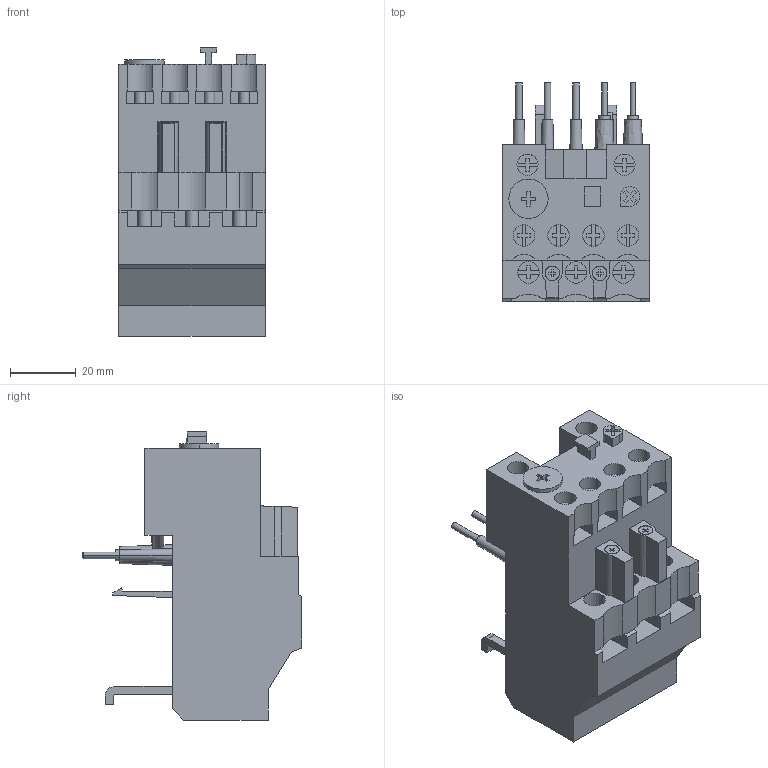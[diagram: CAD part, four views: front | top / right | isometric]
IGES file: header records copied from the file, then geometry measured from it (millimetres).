
Start section: Data from XPlus IGES,  Spatial Corp. Copyright (c) 1999-2004
Global section: file name: 278431.igs; native system:  By Spatial Corp.; preprocessor: XPlus ACIS/IGES 3.0; author: Noname; organization: Noname; date: 20120626.153403; units: millimetre
Bounding box: 44.6 x 66.9 x 88 mm (x, y, z)
Surface area: 24846.8 mm2 (no closed solid volume)
Topology: 0 solids, 0 shells, 386 faces, 2122 edges, 2122 vertices
Faces by surface type: extrusion 304, revolution 82
